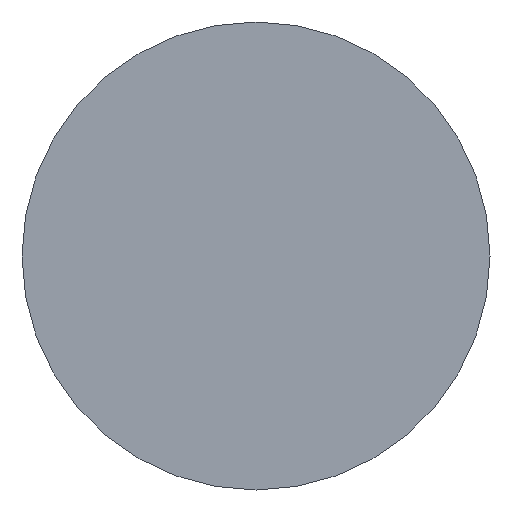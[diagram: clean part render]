
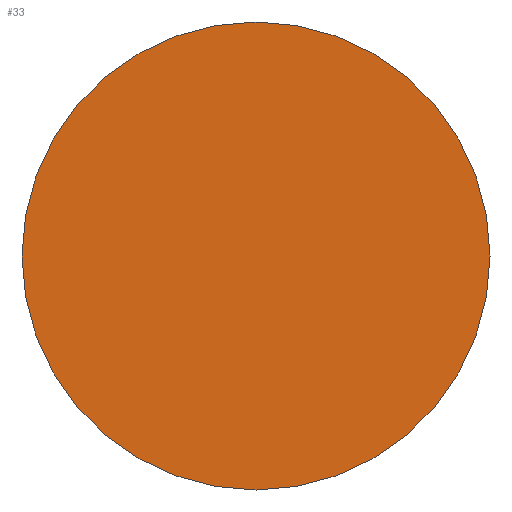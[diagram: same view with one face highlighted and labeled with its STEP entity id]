
A CAD part, front view. The second image highlights one B-rep face of the part: STEP entity #33.
In plain terms, the highlighted planar face has unit normal (0, -1, 0).
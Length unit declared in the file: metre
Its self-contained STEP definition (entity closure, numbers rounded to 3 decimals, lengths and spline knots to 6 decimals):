
#13=ORIENTED_EDGE('',*,*,#17,.T.);
#17=EDGE_CURVE('',#19,#19,#21,.T.);
#19=VERTEX_POINT('',#69);
#21=CIRCLE('',#50,0.0045);
#23=EDGE_LOOP('',(#13));
#27=FACE_BOUND('',#23,.T.);
#31=PLANE('',#49);
#33=ADVANCED_FACE('',(#27),#31,.T.);
#49=AXIS2_PLACEMENT_3D('',#67,#56,#57);
#50=AXIS2_PLACEMENT_3D('',#68,#58,#59);
#56=DIRECTION('',(0.,-1.,0.));
#57=DIRECTION('',(0.,0.,-1.));
#58=DIRECTION('',(0.,-1.,0.));
#59=DIRECTION('',(0.,0.,-1.));
#67=CARTESIAN_POINT('',(0.,-0.0291,0.));
#68=CARTESIAN_POINT('',(0.,-0.0291,0.));
#69=CARTESIAN_POINT('',(0.,-0.0291,-0.0045));
